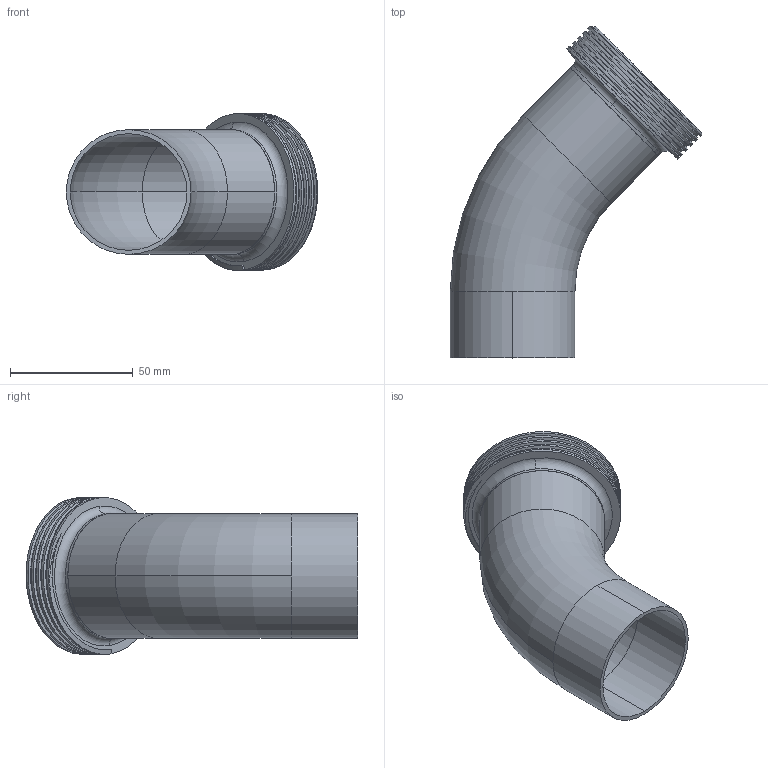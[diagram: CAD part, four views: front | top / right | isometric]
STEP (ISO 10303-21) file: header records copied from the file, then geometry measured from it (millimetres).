
FILE_DESCRIPTION (( 'STEP AP203' ), '1' );
FILE_NAME ('E2KT2.0.STEP', '2018-04-30T18:04:47', ( 'vneprd' ), ( 'Microsoft' ), 'SwSTEP 2.0', 'SolidWorks 2014', '' );
FILE_SCHEMA (( 'CONFIG_CONTROL_DESIGN' ));
Length unit declared in the file: inch
Products named in the file (1): E2KT2.0
Bounding box: 102.45 x 135.23 x 63.9 mm (x, y, z)
Volume: 48419.2 mm3; surface area: 45988.1 mm2
Topology: 2 solids, 2 shells, 49 faces, 118 edges, 76 vertices
Faces by surface type: cylinder 24, plane 8, bspline 7, torus 6, cone 4
Entity records: 4253 total; most frequent: CARTESIAN_POINT 3101, ORIENTED_EDGE 236, DIRECTION 214, EDGE_CURVE 118, AXIS2_PLACEMENT_3D 90, VERTEX_POINT 76, EDGE_LOOP 56, FACE_OUTER_BOUND 49
